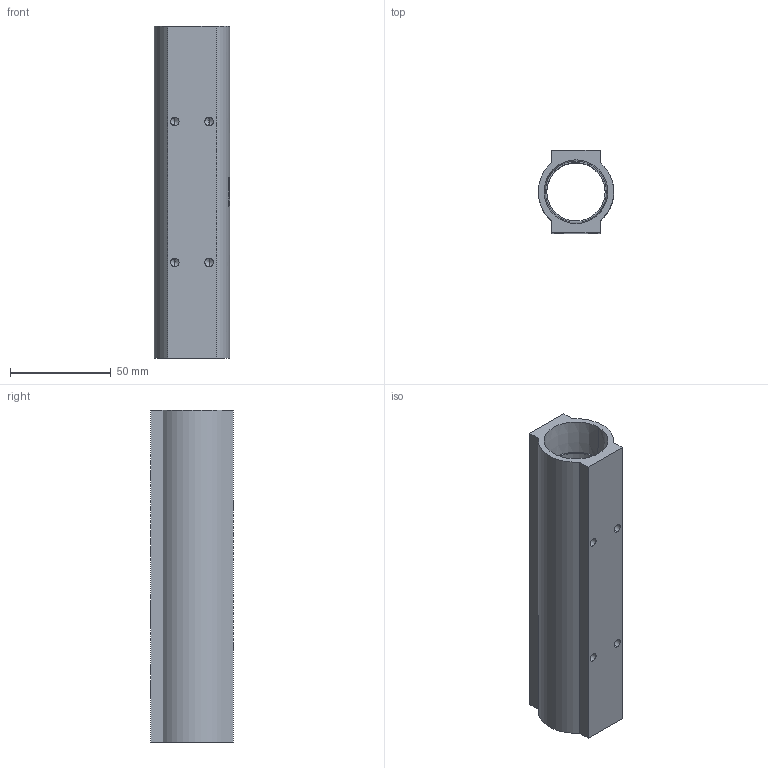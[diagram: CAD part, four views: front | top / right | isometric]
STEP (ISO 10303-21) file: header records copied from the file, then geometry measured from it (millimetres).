
FILE_DESCRIPTION (( 'STEP AP214' ), '1' );
FILE_NAME ('BWM4616R.STEP', '2022-03-15T05:24:34', ( '' ), ( '' ), 'SwSTEP 2.0', 'SolidWorks 2020', '' );
FILE_SCHEMA (( 'AUTOMOTIVE_DESIGN' ));
Length unit declared in the file: millimetre
Products named in the file (1): BWM4616R
Bounding box: 37.44 x 41 x 165 mm (x, y, z)
Volume: 88951.9 mm3; surface area: 39286.5 mm2
Topology: 1 solids, 1 shells, 205 faces, 547 edges, 358 vertices
Faces by surface type: plane 108, cylinder 41, bspline 36, cone 20
Entity records: 10742 total; most frequent: CARTESIAN_POINT 4227, ORIENTED_EDGE 1078, DIRECTION 759, EDGE_CURVE 539, VERTEX_POINT 358, LINE 279, VECTOR 279, AXIS2_PLACEMENT_3D 240
